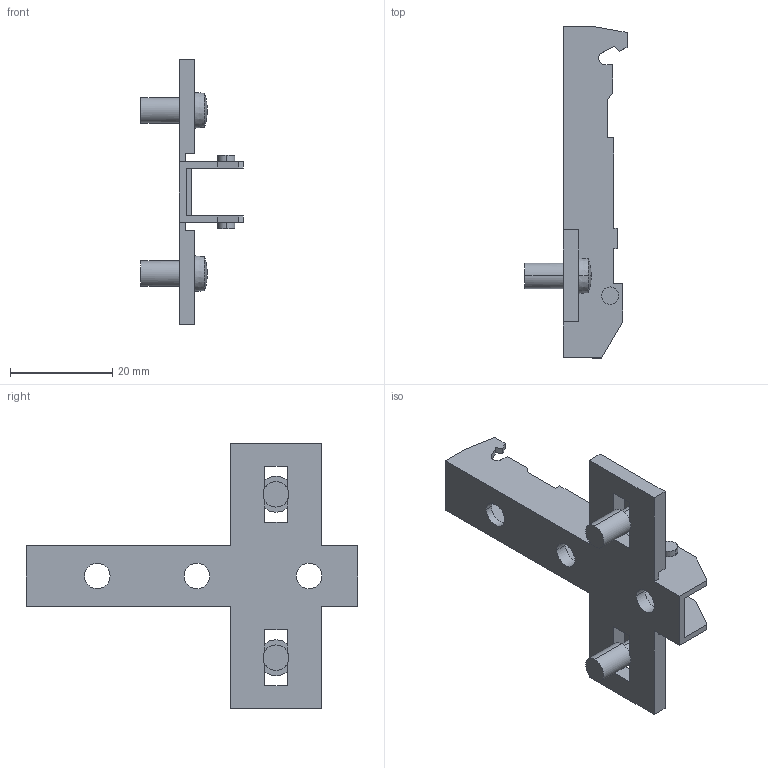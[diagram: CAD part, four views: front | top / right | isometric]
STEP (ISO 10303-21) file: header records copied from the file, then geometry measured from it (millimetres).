
FILE_DESCRIPTION (( 'STEP AP214' ), '1' );
FILE_NAME ('Eco Kreuzmontageplatte LR28_32_Dübel 5mm_kurz_H02.step', '2010-11-18T10:07:04', ( 'grass' ), ( '' ), 'SwSTEP 2.0', 'SolidWorks 2010', '' );
FILE_SCHEMA (( 'AUTOMOTIVE_DESIGN' ));
Length unit declared in the file: millimetre
Products named in the file (1): Eco Kreuzmontageplatte LR28_32_Dübel 5mm_kurz_H02
Bounding box: 20 x 65 x 52 mm (x, y, z)
Volume: 4886.8 mm3; surface area: 6326.1 mm2
Topology: 1 solids, 1 shells, 104 faces, 306 edges, 198 vertices
Faces by surface type: plane 76, cylinder 20, sphere 4, cone 4
Entity records: 3512 total; most frequent: ORIENTED_EDGE 612, CARTESIAN_POINT 609, DIRECTION 584, EDGE_CURVE 306, VECTOR 238, LINE 238, VERTEX_POINT 198, AXIS2_PLACEMENT_3D 173
